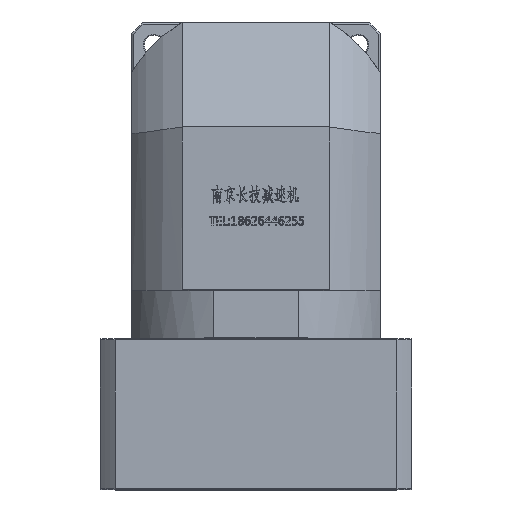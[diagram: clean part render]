
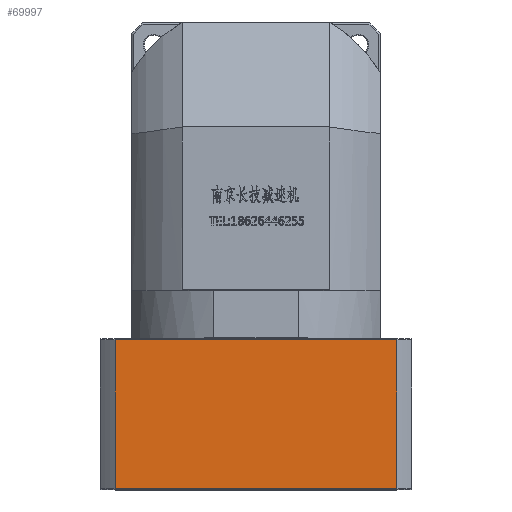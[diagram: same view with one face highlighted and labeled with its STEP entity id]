
A CAD part, top view. The second image highlights one B-rep face of the part: STEP entity #69997.
In plain terms, the highlighted planar face has unit normal (0, 0, 1).
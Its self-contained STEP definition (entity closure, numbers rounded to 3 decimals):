
#4267 = ORIENTED_EDGE ( 'NONE', *, *, #67786, .F. ) ;
#5884 = DIRECTION ( 'NONE',  ( -1., 0., 0. ) ) ;
#17398 = VERTEX_POINT ( 'NONE', #135182 ) ;
#19813 = FACE_OUTER_BOUND ( 'NONE', #139870, .T. ) ;
#24264 = LINE ( 'NONE', #85630, #41195 ) ;
#25125 = VECTOR ( 'NONE', #74289, 1000. ) ;
#27997 = VERTEX_POINT ( 'NONE', #50488 ) ;
#39499 = PLANE ( 'NONE',  #58386 ) ;
#41195 = VECTOR ( 'NONE', #100208, 1000. ) ;
#45212 = EDGE_CURVE ( 'NONE', #27997, #161055, #100042, .T. ) ;
#45392 = VECTOR ( 'NONE', #167747, 1000. ) ;
#50488 = CARTESIAN_POINT ( 'NONE',  ( 80.091, 84.384, -126.408 ) ) ;
#51274 = CARTESIAN_POINT ( 'NONE',  ( -89.401, -1.116, -126.408 ) ) ;
#51545 = CARTESIAN_POINT ( 'NONE',  ( -80.893, -0.616, -126.408 ) ) ;
#58386 = AXIS2_PLACEMENT_3D ( 'NONE', #51274, #79005, #105968 ) ;
#67786 = EDGE_CURVE ( 'NONE', #17398, #27997, #92558, .T. ) ;
#69997 = ADVANCED_FACE ( 'NONE', ( #19813 ), #39499, .F. ) ;
#71164 = EDGE_CURVE ( 'NONE', #161055, #153962, #75497, .T. ) ;
#73224 = CARTESIAN_POINT ( 'NONE',  ( -71.401, -0.616, -126.408 ) ) ;
#73521 = CARTESIAN_POINT ( 'NONE',  ( 80.091, 427.69, -126.408 ) ) ;
#74289 = DIRECTION ( 'NONE',  ( 1., 0., 0. ) ) ;
#75497 = LINE ( 'NONE', #73224, #106980 ) ;
#79005 = DIRECTION ( 'NONE',  ( 0., 0., -1. ) ) ;
#81655 = CARTESIAN_POINT ( 'NONE',  ( 80.091, -0.616, -126.408 ) ) ;
#85630 = CARTESIAN_POINT ( 'NONE',  ( -80.893, 427.69, -126.408 ) ) ;
#86301 = ORIENTED_EDGE ( 'NONE', *, *, #45212, .F. ) ;
#92558 = LINE ( 'NONE', #142986, #25125 ) ;
#100042 = LINE ( 'NONE', #73521, #45392 ) ;
#100208 = DIRECTION ( 'NONE',  ( 0., 1., 0. ) ) ;
#105968 = DIRECTION ( 'NONE',  ( 0., 1., 0. ) ) ;
#106980 = VECTOR ( 'NONE', #5884, 1000. ) ;
#108238 = ORIENTED_EDGE ( 'NONE', *, *, #71164, .F. ) ;
#118876 = EDGE_CURVE ( 'NONE', #153962, #17398, #24264, .T. ) ;
#122475 = ORIENTED_EDGE ( 'NONE', *, *, #118876, .F. ) ;
#135182 = CARTESIAN_POINT ( 'NONE',  ( -80.893, 84.384, -126.408 ) ) ;
#139870 = EDGE_LOOP ( 'NONE', ( #86301, #4267, #122475, #108238 ) ) ;
#142986 = CARTESIAN_POINT ( 'NONE',  ( -89.401, 84.384, -126.408 ) ) ;
#153962 = VERTEX_POINT ( 'NONE', #51545 ) ;
#161055 = VERTEX_POINT ( 'NONE', #81655 ) ;
#167747 = DIRECTION ( 'NONE',  ( 0., -1., 0. ) ) ;
